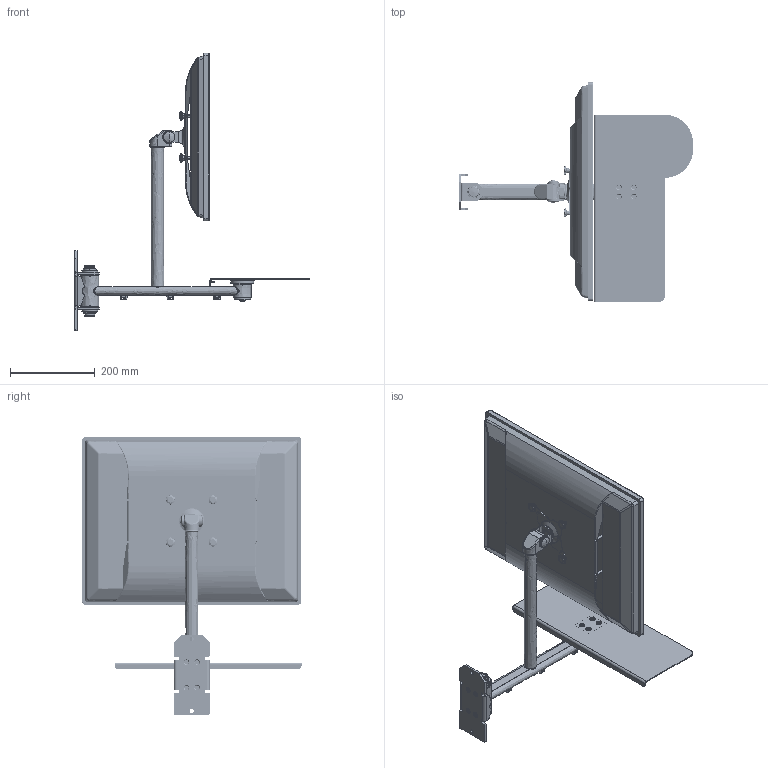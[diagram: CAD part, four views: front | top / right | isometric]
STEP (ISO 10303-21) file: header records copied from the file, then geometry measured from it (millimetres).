
FILE_DESCRIPTION(/* description */ (''),/* implementation_level */ '2;1');
FILE_NAME(/* name */ 'G102',/* time_stamp */ '2018-05-21T16:59:58+08:00',/* author */ (''),/* organization */ (''),/* preprocessor_version */ 'ST-DEVELOPER v15',/* originating_system */ '',/* authorisation */ '');
FILE_SCHEMA (('CONFIG_CONTROL_DESIGN'));
Length unit declared in the file: millimetre
Products named in the file (24): Document; M6-12_2_1; E1-PA-GM_3_1; E1-M8_6_1; E1-FE-DP_4_1; YG-FE-04_24_1; YG-FE-03_12_1; YG-FE-02_19_1; S-PA-05_4; M6-8_3; M5-10_4; 图块 01; XK_3_3; YG-FE-15_2; A1-PA-07_5_1_1_1_1_1_1_1; A3-FE-02_19_1_1_1_1_1_1_1; A1-PA-08_2_1_1_1_1_1_1_1; A1-FE-15_9_1_1_1_1_1_1_1; M4-11_1_1_1_1_1_1; M6-25N_2_1_1_1_1_1_1_1; M6--555_2_1_1_2_2; M8-20_4; JPAN_3_1_1_1_2; LCD1_3
Assembly tree (47 placements, depth 3):
  Document
    M6-12_2_1  x4
    E1-PA-GM_3_1  x2
    E1-M8_6_1  x2
    E1-FE-DP_4_1  x3
    YG-FE-04_24_1
    YG-FE-03_12_1  x4
    YG-FE-02_19_1
    S-PA-05_4  x3
    M6-8_3  x3
    M5-10_4  x3
      图块 01
    XK_3_3  x3
    YG-FE-15_2
    A1-PA-07_5_1_1_1_1_1_1_1
    A3-FE-02_19_1_1_1_1_1_1_1
    A1-PA-08_2_1_1_1_1_1_1_1
    A1-FE-15_9_1_1_1_1_1_1_1
    M4-11_1_1_1_1_1_1  x4
    M6-25N_2_1_1_1_1_1_1_1
    M6--555_2_1_1_2_2  x4
    M8-20_4
    JPAN_3_1_1_1_2
    LCD1_3
Bounding box: 552.2 x 516.66 x 654.49 mm (x, y, z)
Volume: 8254991.4 mm3; surface area: 964708.6 mm2
Topology: 56 solids, 57 shells, 2854 faces, 7777 edges, 5024 vertices
Faces by surface type: bspline 2319, plane 535
Entity records: 96260 total; most frequent: CARTESIAN_POINT 70675, ORIENTED_EDGE 7919, EDGE_CURVE 3985, B_SPLINE_CURVE_WITH_KNOTS 2846, VERTEX_POINT 2616, EDGE_LOOP 1545, ADVANCED_FACE 1429, FACE_OUTER_BOUND 1429
